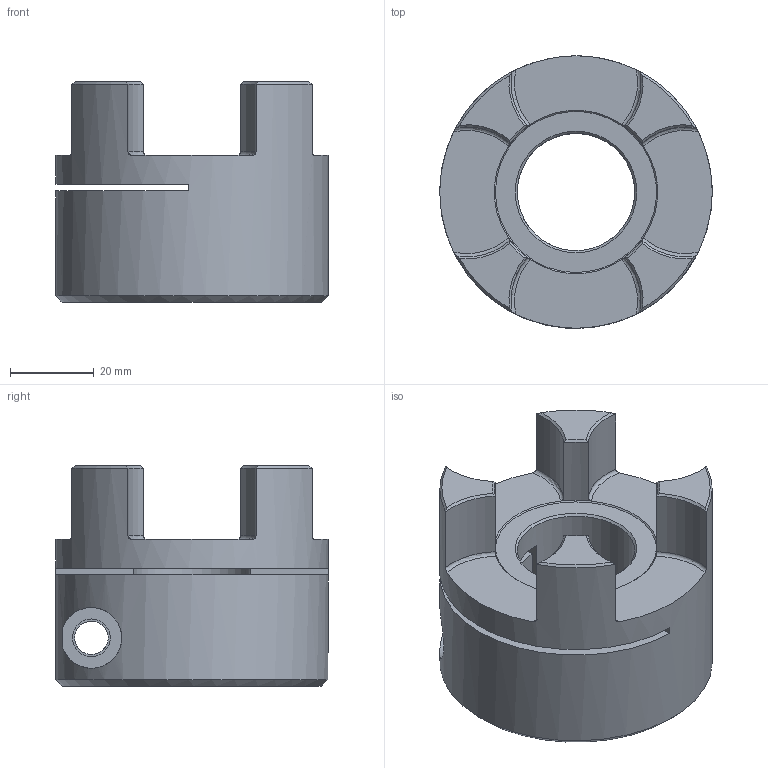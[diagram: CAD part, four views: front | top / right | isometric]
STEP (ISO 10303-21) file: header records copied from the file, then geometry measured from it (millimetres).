
FILE_DESCRIPTION(/* description */ (''),/* implementation_level */ '2;1');
FILE_NAME(/* name */ 'Z:\Giacomo\GE-T 28-38 SG\02528228.stp',/* time_stamp */ '2018-06-26T09:54:41+02:00',/* author */ ('stagistacad'),/* organization */ (''),/* preprocessor_version */ 'ST-DEVELOPER v15.6',/* originating_system */ 'Autodesk Inventor 2015',/* authorisation */ '');
FILE_SCHEMA (('AUTOMOTIVE_DESIGN { 1 0 10303 214 3 1 1 }'));
Length unit declared in the file: millimetre
Products named in the file (1): 02528228
Bounding box: 65 x 65 x 52.5 mm (x, y, z)
Volume: 96898.7 mm3; surface area: 23646.6 mm2
Topology: 1 solids, 1 shells, 68 faces, 172 edges, 106 vertices
Faces by surface type: cone 21, plane 20, cylinder 18, torus 8, bspline 1
Full cylindrical faces by diameter (mm): 8 x1, 9 x1, 28 x1, 65 x1
Entity records: 2268 total; most frequent: CARTESIAN_POINT 696, DIRECTION 327, ORIENTED_EDGE 320, EDGE_CURVE 160, AXIS2_PLACEMENT_3D 145, VERTEX_POINT 101, EDGE_LOOP 79, CIRCLE 78
